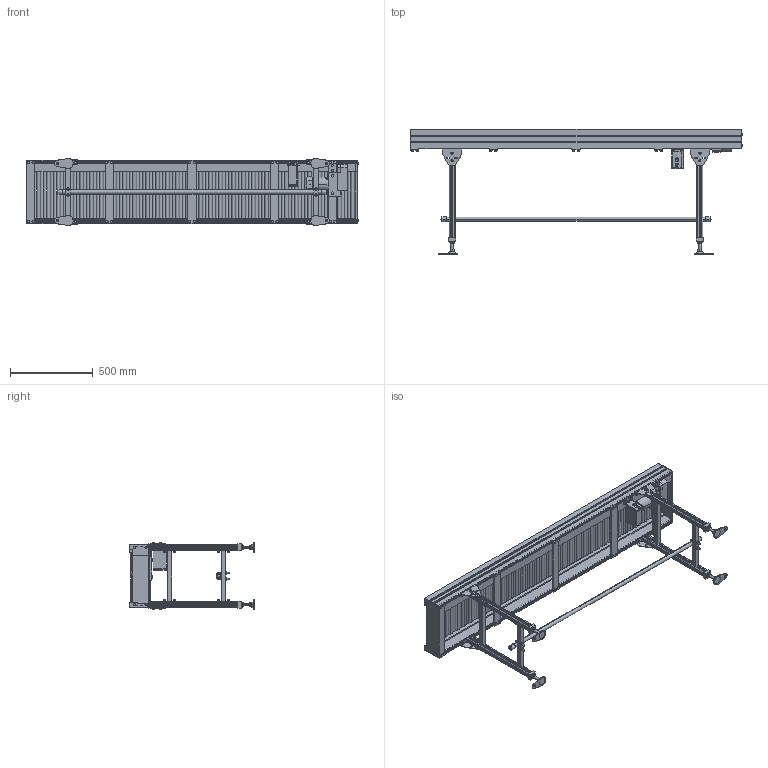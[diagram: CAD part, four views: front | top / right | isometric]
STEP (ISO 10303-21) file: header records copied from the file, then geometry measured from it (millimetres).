
FILE_DESCRIPTION (( 'STEP AP214' ), '1' );
FILE_NAME ('MRA2-309-300-200-IV-100-O.STEP', '2024-02-22T06:26:59', ( '' ), ( '' ), 'SwSTEP 2.0', 'SolidWorks 2017', '' );
FILE_SCHEMA (( 'AUTOMOTIVE_DESIGN' ));
Length unit declared in the file: millimetre
Products named in the file (1): MRA2-309-300-200-IV-100-O
Bounding box: 2008.6 x 755.9 x 406.98 mm (x, y, z)
Volume: 34524956.6 mm3; surface area: 5106495.5 mm2
Topology: 46 solids, 47 shells, 2989 faces, 7641 edges, 4895 vertices
Faces by surface type: plane 1798, cylinder 1038, cone 94, torus 28, bspline 25, sphere 6
Entity records: 92081 total; most frequent: CARTESIAN_POINT 16863, DIRECTION 15760, ORIENTED_EDGE 15246, EDGE_CURVE 7623, AXIS2_PLACEMENT_3D 5290, LINE 5180, VECTOR 5180, VERTEX_POINT 4895
